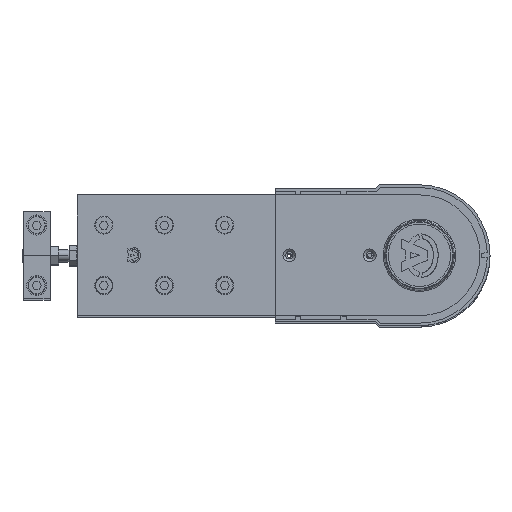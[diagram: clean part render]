
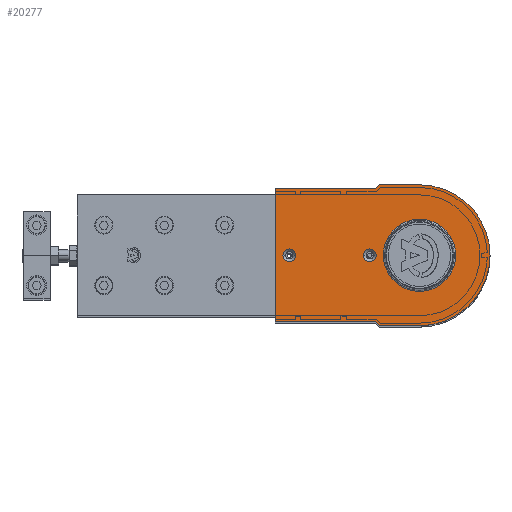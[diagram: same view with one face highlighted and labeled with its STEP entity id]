
A CAD part, top view. The second image highlights one B-rep face of the part: STEP entity #20277.
In plain terms, the highlighted planar face has unit normal (0, 0, 1).
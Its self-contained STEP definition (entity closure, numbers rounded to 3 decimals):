
#63 = DIRECTION ( 'NONE',  ( 0., 0., 1. ) ) ;
#352 = CARTESIAN_POINT ( 'NONE',  ( 97., 0., 0. ) ) ;
#371 = DIRECTION ( 'NONE',  ( 1., 0., 0. ) ) ;
#721 = DIRECTION ( 'NONE',  ( 0., 0., -1. ) ) ;
#789 = VERTEX_POINT ( 'NONE', #6206 ) ;
#826 = EDGE_CURVE ( 'NONE', #18472, #971, #2123, .T. ) ;
#885 = VECTOR ( 'NONE', #18668, 1000. ) ;
#971 = VERTEX_POINT ( 'NONE', #5375 ) ;
#1362 = CARTESIAN_POINT ( 'NONE',  ( 0., 52.5, 0. ) ) ;
#1400 = LINE ( 'NONE', #12300, #885 ) ;
#1475 = DIRECTION ( 'NONE',  ( 1., 0., 0. ) ) ;
#1532 = CARTESIAN_POINT ( 'NONE',  ( 26.933, 0., 0. ) ) ;
#1554 = ORIENTED_EDGE ( 'NONE', *, *, #14557, .F. ) ;
#1673 = VERTEX_POINT ( 'NONE', #3023 ) ;
#1776 = VECTOR ( 'NONE', #6534, 1000. ) ;
#1906 = ORIENTED_EDGE ( 'NONE', *, *, #6779, .T. ) ;
#2120 = VERTEX_POINT ( 'NONE', #3960 ) ;
#2123 = CIRCLE ( 'NONE', #7393, 4.7 ) ;
#2253 = LINE ( 'NONE', #9681, #1776 ) ;
#2449 = DIRECTION ( 'NONE',  ( 0., 1., 0. ) ) ;
#2489 = ORIENTED_EDGE ( 'NONE', *, *, #826, .F. ) ;
#2766 = PLANE ( 'NONE',  #3746 ) ;
#2788 = ORIENTED_EDGE ( 'NONE', *, *, #9908, .T. ) ;
#3023 = CARTESIAN_POINT ( 'NONE',  ( 33., 49.5, 0. ) ) ;
#3718 = DIRECTION ( 'NONE',  ( 0., 0., 1. ) ) ;
#3746 = AXIS2_PLACEMENT_3D ( 'NONE', #12325, #4348, #15513 ) ;
#3960 = CARTESIAN_POINT ( 'NONE',  ( 107.5, -49.5, 0. ) ) ;
#4237 = FACE_BOUND ( 'NONE', #11369, .T. ) ;
#4242 = EDGE_CURVE ( 'NONE', #971, #18472, #6596, .T. ) ;
#4348 = DIRECTION ( 'NONE',  ( 0., 0., 1. ) ) ;
#4371 = ORIENTED_EDGE ( 'NONE', *, *, #20519, .T. ) ;
#4462 = ORIENTED_EDGE ( 'NONE', *, *, #8667, .T. ) ;
#4628 = EDGE_LOOP ( 'NONE', ( #6484, #4462 ) ) ;
#4673 = EDGE_CURVE ( 'NONE', #14374, #789, #20576, .T. ) ;
#4726 = VERTEX_POINT ( 'NONE', #15173 ) ;
#5066 = ORIENTED_EDGE ( 'NONE', *, *, #19867, .F. ) ;
#5375 = CARTESIAN_POINT ( 'NONE',  ( 92.3, 0., 0. ) ) ;
#5403 = CARTESIAN_POINT ( 'NONE',  ( 33., 49.5, 0. ) ) ;
#5550 = ORIENTED_EDGE ( 'NONE', *, *, #4242, .F. ) ;
#6152 = LINE ( 'NONE', #11998, #14151 ) ;
#6206 = CARTESIAN_POINT ( 'NONE',  ( -26.933, 0., 0. ) ) ;
#6272 = VECTOR ( 'NONE', #1475, 1000. ) ;
#6306 = AXIS2_PLACEMENT_3D ( 'NONE', #12436, #9161, #15776 ) ;
#6446 = DIRECTION ( 'NONE',  ( 0., 0., 1. ) ) ;
#6484 = ORIENTED_EDGE ( 'NONE', *, *, #4673, .T. ) ;
#6534 = DIRECTION ( 'NONE',  ( -1., 0., 0. ) ) ;
#6596 = CIRCLE ( 'NONE', #6865, 4.7 ) ;
#6779 = EDGE_CURVE ( 'NONE', #14225, #4726, #18976, .T. ) ;
#6865 = AXIS2_PLACEMENT_3D ( 'NONE', #352, #9889, #19423 ) ;
#7393 = AXIS2_PLACEMENT_3D ( 'NONE', #15946, #6446, #13718 ) ;
#7418 = EDGE_CURVE ( 'NONE', #20272, #12179, #2253, .T. ) ;
#7435 = VERTEX_POINT ( 'NONE', #12002 ) ;
#8003 = FACE_OUTER_BOUND ( 'NONE', #20063, .T. ) ;
#8391 = CARTESIAN_POINT ( 'NONE',  ( 0., 0., 0. ) ) ;
#8667 = EDGE_CURVE ( 'NONE', #789, #14374, #9728, .T. ) ;
#8688 = EDGE_LOOP ( 'NONE', ( #2489, #5550 ) ) ;
#8705 = AXIS2_PLACEMENT_3D ( 'NONE', #8391, #19525, #9990 ) ;
#8872 = ORIENTED_EDGE ( 'NONE', *, *, #10966, .T. ) ;
#8937 = VERTEX_POINT ( 'NONE', #15093 ) ;
#9116 = CARTESIAN_POINT ( 'NONE',  ( 0., -52.5, 0. ) ) ;
#9161 = DIRECTION ( 'NONE',  ( 0., 0., -1. ) ) ;
#9623 = CARTESIAN_POINT ( 'NONE',  ( 37., 0., 0. ) ) ;
#9681 = CARTESIAN_POINT ( 'NONE',  ( 30., 52.5, 0. ) ) ;
#9728 = CIRCLE ( 'NONE', #6306, 26.933 ) ;
#9883 = AXIS2_PLACEMENT_3D ( 'NONE', #9623, #63, #11233 ) ;
#9889 = DIRECTION ( 'NONE',  ( 0., 0., 1. ) ) ;
#9908 = EDGE_CURVE ( 'NONE', #7435, #1673, #20376, .T. ) ;
#9971 = CARTESIAN_POINT ( 'NONE',  ( 33., -49.5, 0. ) ) ;
#9990 = DIRECTION ( 'NONE',  ( 1., 0., 0. ) ) ;
#10252 = CARTESIAN_POINT ( 'NONE',  ( 30., -52.5, 0. ) ) ;
#10712 = CARTESIAN_POINT ( 'NONE',  ( 30., 52.5, 0. ) ) ;
#10723 = CARTESIAN_POINT ( 'NONE',  ( 101.7, 0., 0. ) ) ;
#10939 = CARTESIAN_POINT ( 'NONE',  ( 107.5, -49.5, 0. ) ) ;
#10966 = EDGE_CURVE ( 'NONE', #2120, #7435, #6152, .T. ) ;
#11165 = ORIENTED_EDGE ( 'NONE', *, *, #7418, .T. ) ;
#11233 = DIRECTION ( 'NONE',  ( 1., 0., 0. ) ) ;
#11369 = EDGE_LOOP ( 'NONE', ( #1554, #5066 ) ) ;
#11884 = CARTESIAN_POINT ( 'NONE',  ( 0., 0., 0. ) ) ;
#11928 = VECTOR ( 'NONE', #17249, 1000. ) ;
#11982 = CIRCLE ( 'NONE', #8705, 52.5 ) ;
#11989 = ORIENTED_EDGE ( 'NONE', *, *, #18552, .T. ) ;
#11998 = CARTESIAN_POINT ( 'NONE',  ( 107.5, -49.5, 0. ) ) ;
#12002 = CARTESIAN_POINT ( 'NONE',  ( 107.5, 49.5, 0. ) ) ;
#12179 = VERTEX_POINT ( 'NONE', #1362 ) ;
#12242 = FACE_BOUND ( 'NONE', #8688, .T. ) ;
#12300 = CARTESIAN_POINT ( 'NONE',  ( 33., -49.5, 0. ) ) ;
#12325 = CARTESIAN_POINT ( 'NONE',  ( 0., 0., 0. ) ) ;
#12436 = CARTESIAN_POINT ( 'NONE',  ( 0., 0., 0. ) ) ;
#12445 = VERTEX_POINT ( 'NONE', #9971 ) ;
#13290 = CARTESIAN_POINT ( 'NONE',  ( 37., 0., 0. ) ) ;
#13376 = DIRECTION ( 'NONE',  ( -0.707, 0.707, 0. ) ) ;
#13513 = AXIS2_PLACEMENT_3D ( 'NONE', #13290, #3718, #14883 ) ;
#13718 = DIRECTION ( 'NONE',  ( 1., 0., 0. ) ) ;
#13798 = CIRCLE ( 'NONE', #9883, 4.7 ) ;
#14151 = VECTOR ( 'NONE', #2449, 1000. ) ;
#14225 = VERTEX_POINT ( 'NONE', #9116 ) ;
#14374 = VERTEX_POINT ( 'NONE', #1532 ) ;
#14557 = EDGE_CURVE ( 'NONE', #8937, #19137, #16856, .T. ) ;
#14823 = EDGE_CURVE ( 'NONE', #4726, #12445, #1400, .T. ) ;
#14883 = DIRECTION ( 'NONE',  ( 1., 0., 0. ) ) ;
#14910 = ORIENTED_EDGE ( 'NONE', *, *, #14823, .T. ) ;
#15093 = CARTESIAN_POINT ( 'NONE',  ( 41.7, 0., 0. ) ) ;
#15173 = CARTESIAN_POINT ( 'NONE',  ( 30., -52.5, 0. ) ) ;
#15513 = DIRECTION ( 'NONE',  ( 1., 0., 0. ) ) ;
#15580 = CARTESIAN_POINT ( 'NONE',  ( 107.5, 49.5, 0. ) ) ;
#15655 = DIRECTION ( 'NONE',  ( 1., 0., 0. ) ) ;
#15776 = DIRECTION ( 'NONE',  ( 1., 0., 0. ) ) ;
#15946 = CARTESIAN_POINT ( 'NONE',  ( 97., 0., 0. ) ) ;
#16223 = VECTOR ( 'NONE', #13376, 1000. ) ;
#16472 = FACE_BOUND ( 'NONE', #4628, .T. ) ;
#16735 = LINE ( 'NONE', #5403, #16223 ) ;
#16856 = CIRCLE ( 'NONE', #13513, 4.7 ) ;
#17249 = DIRECTION ( 'NONE',  ( -1., 0., 0. ) ) ;
#17755 = ORIENTED_EDGE ( 'NONE', *, *, #20066, .T. ) ;
#17951 = VECTOR ( 'NONE', #15655, 1000. ) ;
#18444 = LINE ( 'NONE', #10939, #17951 ) ;
#18472 = VERTEX_POINT ( 'NONE', #10723 ) ;
#18552 = EDGE_CURVE ( 'NONE', #12445, #2120, #18444, .T. ) ;
#18668 = DIRECTION ( 'NONE',  ( 0.707, 0.707, 0. ) ) ;
#18976 = LINE ( 'NONE', #10252, #6272 ) ;
#19137 = VERTEX_POINT ( 'NONE', #20503 ) ;
#19275 = AXIS2_PLACEMENT_3D ( 'NONE', #11884, #721, #371 ) ;
#19423 = DIRECTION ( 'NONE',  ( 1., 0., 0. ) ) ;
#19525 = DIRECTION ( 'NONE',  ( 0., 0., 1. ) ) ;
#19867 = EDGE_CURVE ( 'NONE', #19137, #8937, #13798, .T. ) ;
#20063 = EDGE_LOOP ( 'NONE', ( #8872, #2788, #17755, #11165, #4371, #1906, #14910, #11989 ) ) ;
#20066 = EDGE_CURVE ( 'NONE', #1673, #20272, #16735, .T. ) ;
#20272 = VERTEX_POINT ( 'NONE', #10712 ) ;
#20277 = ADVANCED_FACE ( 'NONE', ( #16472, #4237, #12242, #8003 ), #2766, .T. ) ;
#20376 = LINE ( 'NONE', #15580, #11928 ) ;
#20503 = CARTESIAN_POINT ( 'NONE',  ( 32.3, 0., 0. ) ) ;
#20519 = EDGE_CURVE ( 'NONE', #12179, #14225, #11982, .T. ) ;
#20576 = CIRCLE ( 'NONE', #19275, 26.933 ) ;
